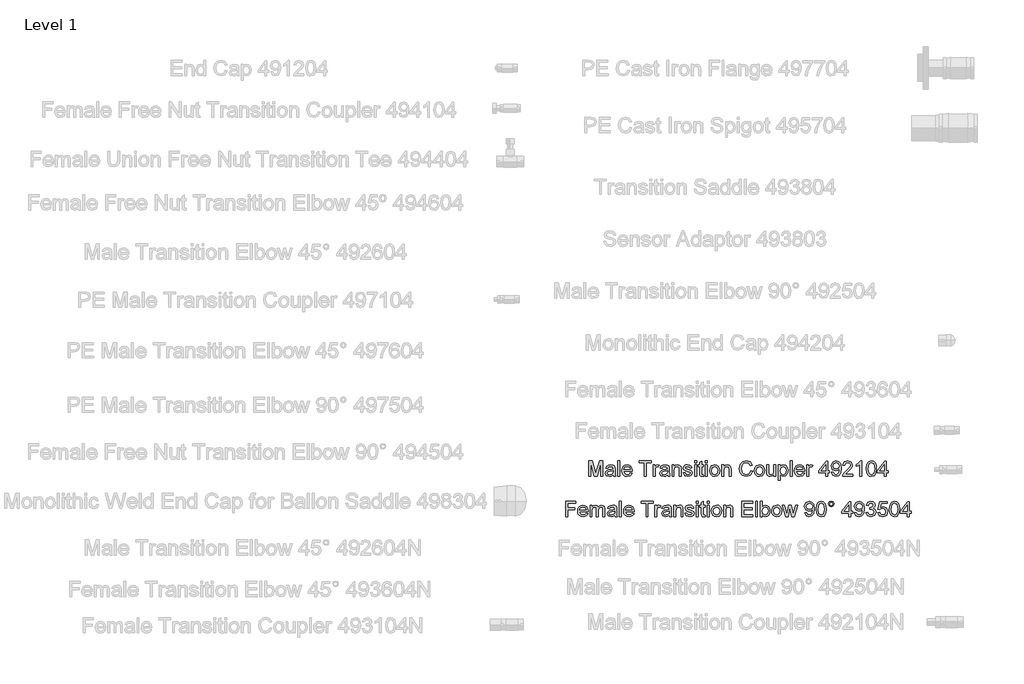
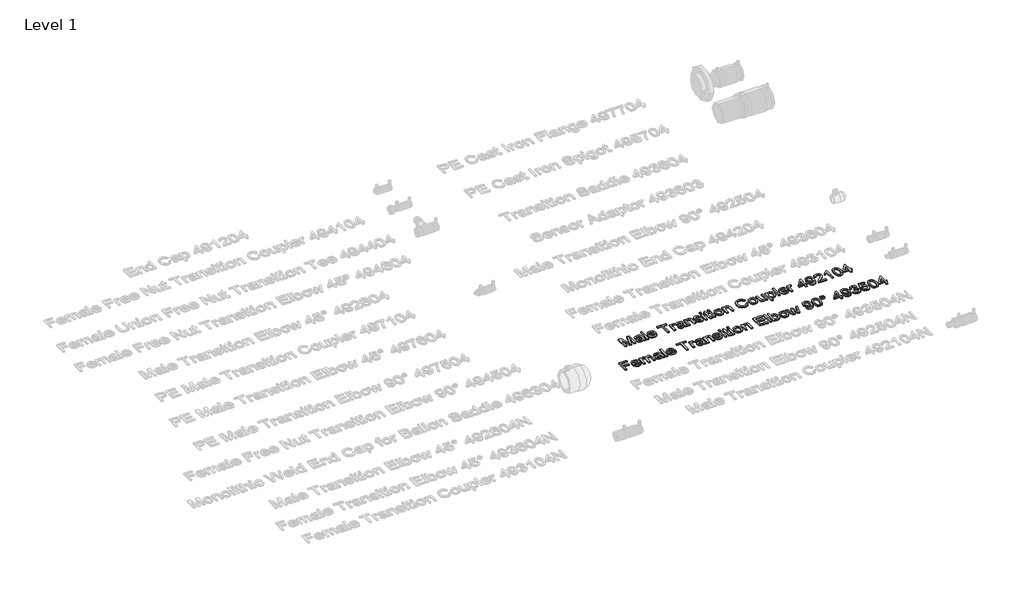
# One storey, part 23 of 38: 2 proxies.
"""IFC4 building model written with IfcOpenShell, lengths in millimetres."""

from ifc_helpers import new_model, si_unit, origin, origin_with_axes, place, context, project, spatial, polyline, outline, extrude, element, save

model = new_model("IFC4")

# Units and contexts
model_context = context("Model", 3, world=origin())
ifc_project = project(units=[si_unit("LENGTHUNIT", "METRE", prefix="MILLI")], contexts=[model_context])

# Site, building, storey
site = spatial("IfcSite", under=ifc_project)
building = spatial("IfcBuilding", under=site)
storey = spatial("IfcBuildingStorey", under=building, Name="Level 1", Elevation=0.0)

# Proxies
placement = place(None, origin())
element("IfcBuildingElementProxy", 1, Name="100 mm Arial", ObjectType="100 mm Arial", at=placement, inside=storey, context=model_context, shape_type="SweptSolid", body=[
    extrude(outline(polyline([(17636.9905276, 3538.8467771), (17636.9905276, 3597.9237001), (17649.6972584, 3597.9237001), (17661.7837968, 3556.2842771), (17664.2212968, 3547.5871617), (17666.8607199, 3557.0054309), (17678.7453353, 3597.9237001), (17691.4520661, 3597.9237001), (17691.4520661, 3538.8467771), (17684.0674507, 3538.8467771), (17684.0674507, 3590.5390848), (17669.2261045, 3538.8467771), (17659.2164891, 3538.8467771), (17644.375143, 3590.5390848), (17644.375143, 3538.8467771), (17636.9905276, 3538.8467771)])), origin_with_axes(), (0.0, 0.0, 1.0), 5.0),
    extrude(outline(polyline([(17731.1443737, 3544.3852386), (17723.9833161, 3539.3804309), (17716.0722584, 3537.9237001), (17705.3487007, 3541.4285078), (17701.6059122, 3550.3852386), (17703.0193737, 3556.2265848), (17706.7333161, 3560.4669694), (17711.9039891, 3562.8900463), (17718.2934122, 3564.0006232), (17731.1011045, 3566.5390848), (17731.1443737, 3568.1833155), (17729.1107199, 3573.6352386), (17720.9472584, 3575.769854), (17713.4761045, 3574.3491809), (17709.9136045, 3569.3083155), (17702.5289891, 3570.2313924), (17705.7237007, 3577.4429309), (17712.156393, 3581.6688924), (17721.8991814, 3583.1544694), (17730.8487007, 3581.8419694), (17735.9039891, 3578.5462963), (17738.1684122, 3573.5342771), (17738.5289891, 3567.0727386), (17738.5289891, 3557.8852386), (17738.9039891, 3545.0559117), (17740.375143, 3538.8467771), (17732.9905276, 3538.8467771), (17731.1443737, 3544.3852386)]), holes=[polyline([(17731.1443737, 3559.1544694), (17719.2309122, 3556.8900463), (17712.8775468, 3555.6929309), (17710.000143, 3553.7458155), (17708.9905276, 3550.9044694), (17711.1900468, 3546.9092771), (17717.6443737, 3545.3083155), (17725.1155276, 3547.0751424), (17729.9328353, 3551.3515848), (17731.1011045, 3557.0631232), (17731.1443737, 3559.1544694)])]), origin_with_axes(), (0.0, 0.0, 1.0), 5.0),
    extrude(outline(polyline([(17748.6828353, 3538.8467771), (17748.6828353, 3597.9237001), (17756.0674507, 3597.9237001), (17756.0674507, 3538.8467771), (17748.6828353, 3538.8467771)])), origin_with_axes(), (0.0, 0.0, 1.0), 5.0),
    extrude(outline(polyline([(17797.5193737, 3551.769854), (17804.7597584, 3550.8467771), (17797.9881237, 3541.3131232), (17785.375143, 3537.9237001), (17776.7104795, 3539.3858396), (17770.0434122, 3543.7722578), (17765.7922103, 3550.7980992), (17764.375143, 3560.1785078), (17765.8066334, 3569.8744213), (17770.1011045, 3577.1256232), (17776.6780276, 3581.6472578), (17784.9568737, 3583.1544694), (17792.9779074, 3581.6508636), (17799.3871622, 3577.1400463), (17803.5896862, 3569.9032674), (17804.9905276, 3560.2217771), (17804.9472584, 3558.2313924), (17771.7597584, 3558.2313924), (17776.0073545, 3548.6400463), (17785.5193737, 3545.3083155), (17792.7597584, 3546.8515848), (17797.5193737, 3551.769854)]), holes=[polyline([(17771.7597584, 3565.6160078), (17797.6059122, 3565.6160078), (17794.6491814, 3572.3083155), (17784.9280276, 3575.769854), (17775.8342776, 3573.0078348), (17771.7597584, 3565.6160078)])]), origin_with_axes(), (0.0, 0.0, 1.0), 5.0),
    extrude(outline(polyline([(17851.1443737, 3538.8467771), (17851.1443737, 3590.5390848), (17831.7597584, 3590.5390848), (17831.7597584, 3597.9237001), (17877.9136045, 3597.9237001), (17877.9136045, 3590.5390848), (17858.5289891, 3590.5390848), (17858.5289891, 3538.8467771), (17851.1443737, 3538.8467771)])), origin_with_axes(), (0.0, 0.0, 1.0), 5.0),
    extrude(outline(polyline([(17885.2982199, 3538.8467771), (17885.2982199, 3582.2313924), (17891.7597584, 3582.2313924), (17891.7597584, 3575.8131232), (17896.3462968, 3581.7265848), (17900.9616814, 3583.1544694), (17908.375143, 3580.8756232), (17905.9087968, 3574.2554309), (17900.7164891, 3575.769854), (17896.5410084, 3574.3131232), (17893.8799507, 3570.2746617), (17892.6828353, 3561.6496617), (17892.6828353, 3538.8467771), (17885.2982199, 3538.8467771)])), origin_with_axes(), (0.0, 0.0, 1.0), 5.0),
    extrude(outline(polyline([(17940.6828353, 3544.3852386), (17933.5217776, 3539.3804309), (17925.6107199, 3537.9237001), (17914.8871622, 3541.4285078), (17911.1443737, 3550.3852386), (17912.5578353, 3556.2265848), (17916.2717776, 3560.4669694), (17921.4424507, 3562.8900463), (17927.8318737, 3564.0006232), (17940.6395661, 3566.5390848), (17940.6828353, 3568.1833155), (17938.6491814, 3573.6352386), (17930.4857199, 3575.769854), (17923.0145661, 3574.3491809), (17919.4520661, 3569.3083155), (17912.0674507, 3570.2313924), (17915.2621622, 3577.4429309), (17921.6948545, 3581.6688924), (17931.437643, 3583.1544694), (17940.3871622, 3581.8419694), (17945.4424507, 3578.5462963), (17947.7068737, 3573.5342771), (17948.0674507, 3567.0727386), (17948.0674507, 3557.8852386), (17948.4424507, 3545.0559117), (17949.9136045, 3538.8467771), (17942.5289891, 3538.8467771), (17940.6828353, 3544.3852386)]), holes=[polyline([(17940.6828353, 3559.1544694), (17928.7693737, 3556.8900463), (17922.4160084, 3555.6929309), (17919.5386045, 3553.7458155), (17918.5289891, 3550.9044694), (17920.7285084, 3546.9092771), (17927.1828353, 3545.3083155), (17934.6539891, 3547.0751424), (17939.4712968, 3551.3515848), (17940.6395661, 3557.0631232), (17940.6828353, 3559.1544694)])]), origin_with_axes(), (0.0, 0.0, 1.0), 5.0),
    extrude(outline(polyline([(17958.2212968, 3538.8467771), (17958.2212968, 3582.2313924), (17965.6059122, 3582.2313924), (17965.6059122, 3576.1737001), (17971.2525468, 3581.4092771), (17978.9616814, 3583.1544694), (17985.9352391, 3581.7482194), (17990.6948545, 3578.0559117), (17992.9087968, 3572.6256232), (17993.2982199, 3565.4862001), (17993.2982199, 3538.8467771), (17985.9136045, 3538.8467771), (17985.9136045, 3564.4910078), (17985.062643, 3571.0246617), (17982.0554314, 3574.4789886), (17976.9857199, 3575.769854), (17968.9737007, 3572.8708155), (17965.6059122, 3561.8660078), (17965.6059122, 3538.8467771), (17958.2212968, 3538.8467771)])), origin_with_axes(), (0.0, 0.0, 1.0), 5.0),
    extrude(outline(polyline([(18000.6828353, 3551.769854), (18008.0674507, 3552.6929309), (18011.4857199, 3547.2121617), (18019.3174507, 3545.3083155), (18026.8462968, 3547.0535078), (18029.2982199, 3551.1496617), (18026.8318737, 3554.4669694), (18019.2309122, 3556.5727386), (18008.1107199, 3560.1857194), (18003.2573545, 3564.4044694), (18001.6059122, 3570.3612001), (18002.9328353, 3575.863604), (18006.5530276, 3580.0679309), (18011.2477391, 3582.2530271), (18017.6011045, 3583.1544694), (18026.5866814, 3581.7049501), (18032.2982199, 3577.7818732), (18034.8366814, 3571.1544694), (18027.4520661, 3570.2313924), (18024.6756237, 3574.3059117), (18018.1780276, 3575.769854), (18011.1107199, 3574.3708155), (18008.9905276, 3571.1112001), (18009.8703353, 3568.9621617), (18012.625143, 3567.332354), (18018.9857199, 3565.7602386), (18029.8246622, 3562.2842771), (18034.8583161, 3558.3467771), (18036.6828353, 3551.9285078), (18034.5410084, 3544.8612001), (18028.3607199, 3539.7337963), (18019.2164891, 3537.9237001), (18006.3366814, 3541.4140848), (18000.6828353, 3551.769854)])), origin_with_axes(), (0.0, 0.0, 1.0), 5.0),
    extrude(outline(polyline([(18044.9905276, 3590.5390848), (18044.9905276, 3597.9237001), (18052.375143, 3597.9237001), (18052.375143, 3590.5390848), (18044.9905276, 3590.5390848)])), origin_with_axes(), (0.0, 0.0, 1.0), 5.0),
    extrude(outline(polyline([(18044.9905276, 3538.8467771), (18044.9905276, 3582.2313924), (18052.375143, 3582.2313924), (18052.375143, 3538.8467771), (18044.9905276, 3538.8467771)])), origin_with_axes(), (0.0, 0.0, 1.0), 5.0),
    extrude(outline(polyline([(18079.1443737, 3545.0054309), (18080.0674507, 3538.6304309), (18074.5434122, 3537.9237001), (18068.3559122, 3539.1496617), (18065.2693737, 3542.3660078), (18064.375143, 3550.7458155), (18064.375143, 3574.8467771), (18058.8366814, 3574.8467771), (18058.8366814, 3582.2313924), (18064.375143, 3582.2313924), (18064.375143, 3592.7746617), (18071.7597584, 3597.1160078), (18071.7597584, 3582.2313924), (18079.1443737, 3582.2313924), (18079.1443737, 3574.8467771), (18071.7597584, 3574.8467771), (18071.7597584, 3550.9621617), (18072.1491814, 3547.1544694), (18073.4112007, 3545.8059117), (18075.9280276, 3545.3083155), (18079.1443737, 3545.0054309)])), origin_with_axes(), (0.0, 0.0, 1.0), 5.0),
    extrude(outline(polyline([(18086.5289891, 3590.5390848), (18086.5289891, 3597.9237001), (18093.9136045, 3597.9237001), (18093.9136045, 3590.5390848), (18086.5289891, 3590.5390848)])), origin_with_axes(), (0.0, 0.0, 1.0), 5.0),
    extrude(outline(polyline([(18086.5289891, 3538.8467771), (18086.5289891, 3582.2313924), (18093.9136045, 3582.2313924), (18093.9136045, 3538.8467771), (18086.5289891, 3538.8467771)])), origin_with_axes(), (0.0, 0.0, 1.0), 5.0),
    extrude(outline(polyline([(18103.1443737, 3560.5390848), (18104.7417295, 3570.9994213), (18109.5337968, 3578.3515848), (18122.5434122, 3583.1544694), (18130.3012247, 3581.6923299), (18136.4977391, 3577.3059117), (18140.5596382, 3570.3413684), (18141.9136045, 3561.144854), (18139.5193737, 3548.0054309), (18132.5458161, 3540.5703348), (18122.5434122, 3537.9237001), (18114.6918497, 3539.3804309), (18108.5025468, 3543.7506232), (18104.483917, 3550.8612001), (18103.1443737, 3560.5390848)]), holes=[polyline([(18110.5289891, 3560.5535078), (18113.9472584, 3549.1087963), (18122.5434122, 3545.3083155), (18131.1107199, 3549.1304309), (18134.5289891, 3560.7842771), (18131.0890853, 3571.9693732), (18122.5434122, 3575.769854), (18113.9472584, 3571.9837963), (18110.5289891, 3560.5535078)])]), origin_with_axes(), (0.0, 0.0, 1.0), 5.0),
    extrude(outline(polyline([(18150.2212968, 3538.8467771), (18150.2212968, 3582.2313924), (18157.6059122, 3582.2313924), (18157.6059122, 3576.1737001), (18163.2525468, 3581.4092771), (18170.9616814, 3583.1544694), (18177.9352391, 3581.7482194), (18182.6948545, 3578.0559117), (18184.9087968, 3572.6256232), (18185.2982199, 3565.4862001), (18185.2982199, 3538.8467771), (18177.9136045, 3538.8467771), (18177.9136045, 3564.4910078), (18177.062643, 3571.0246617), (18174.0554314, 3574.4789886), (18168.9857199, 3575.769854), (18160.9737007, 3572.8708155), (18157.6059122, 3561.8660078), (18157.6059122, 3538.8467771), (18150.2212968, 3538.8467771)])), origin_with_axes(), (0.0, 0.0, 1.0), 5.0),
    extrude(outline(polyline([(18260.9905276, 3559.8467771), (18268.375143, 3557.9429309), (18259.6203353, 3543.051104), (18244.1587968, 3537.9237001), (18228.7910084, 3541.8035078), (18219.7765853, 3553.0390848), (18216.6828353, 3568.832354), (18220.1804314, 3584.8852386), (18230.125143, 3595.2914886), (18244.3174507, 3598.8467771), (18259.1083161, 3594.2458155), (18267.4520661, 3581.2938924), (18260.0674507, 3579.5342771), (18254.0097584, 3588.613604), (18244.0289891, 3591.4621617), (18232.4761045, 3588.3035078), (18225.9496622, 3579.8227386), (18224.0674507, 3568.8467771), (18226.2958161, 3556.1256232), (18233.2333161, 3547.9982194), (18243.4232199, 3545.3083155), (18254.7237007, 3548.9717771), (18260.9905276, 3559.8467771)])), origin_with_axes(), (0.0, 0.0, 1.0), 5.0),
    extrude(outline(polyline([(18275.7597584, 3560.5390848), (18277.3571141, 3570.9994213), (18282.1491814, 3578.3515848), (18295.1587968, 3583.1544694), (18302.9166093, 3581.6923299), (18309.1131237, 3577.3059117), (18313.1750228, 3570.3413684), (18314.5289891, 3561.144854), (18312.1347584, 3548.0054309), (18305.1612007, 3540.5703348), (18295.1587968, 3537.9237001), (18287.3072343, 3539.3804309), (18281.1179314, 3543.7506232), (18277.0993016, 3550.8612001), (18275.7597584, 3560.5390848)]), holes=[polyline([(18283.1443737, 3560.5535078), (18286.562643, 3549.1087963), (18295.1587968, 3545.3083155), (18303.7261045, 3549.1304309), (18307.1443737, 3560.7842771), (18303.7044699, 3571.9693732), (18295.1587968, 3575.769854), (18286.562643, 3571.9837963), (18283.1443737, 3560.5535078)])]), origin_with_axes(), (0.0, 0.0, 1.0), 5.0),
    extrude(outline(polyline([(18350.5289891, 3538.8467771), (18350.5289891, 3546.3035078), (18344.7453353, 3540.0186521), (18337.2020661, 3537.9237001), (18330.2573545, 3539.394854), (18325.468893, 3543.0871617), (18323.2693737, 3548.5246617), (18322.8366814, 3555.3900463), (18322.8366814, 3582.2313924), (18330.2212968, 3582.2313924), (18330.2212968, 3558.8660078), (18330.6684122, 3551.3371617), (18333.5890853, 3546.9164886), (18339.0914891, 3545.3083155), (18345.2573545, 3546.9525463), (18349.3318737, 3551.4309117), (18350.5289891, 3559.6592771), (18350.5289891, 3582.2313924), (18357.9136045, 3582.2313924), (18357.9136045, 3538.8467771), (18350.5289891, 3538.8467771)])), origin_with_axes(), (0.0, 0.0, 1.0), 5.0),
    extrude(outline(polyline([(18368.0674507, 3522.2313924), (18368.0674507, 3582.2313924), (18375.4520661, 3582.2313924), (18375.4520661, 3574.9910078), (18380.5578353, 3581.113604), (18387.4520661, 3583.1544694), (18396.812643, 3580.2987001), (18402.9280276, 3572.2506232), (18404.9905276, 3560.8708155), (18402.6612007, 3548.9068732), (18395.8967776, 3540.7578348), (18386.5578353, 3537.9237001), (18380.1323545, 3539.8203348), (18375.4520661, 3544.6160078), (18375.4520661, 3522.2313924), (18368.0674507, 3522.2313924)]), holes=[polyline([(18375.4520661, 3560.1929309), (18378.6467776, 3548.9429309), (18386.3991814, 3545.3083155), (18394.3102391, 3549.0727386), (18397.6059122, 3560.7410078), (18394.3895661, 3572.019854), (18386.7020661, 3575.769854), (18378.8631237, 3571.7818732), (18375.4520661, 3560.1929309)])]), origin_with_axes(), (0.0, 0.0, 1.0), 5.0),
    extrude(outline(polyline([(18413.2982199, 3538.8467771), (18413.2982199, 3597.9237001), (18420.6828353, 3597.9237001), (18420.6828353, 3538.8467771), (18413.2982199, 3538.8467771)])), origin_with_axes(), (0.0, 0.0, 1.0), 5.0),
    extrude(outline(polyline([(18462.1347584, 3551.769854), (18469.375143, 3550.8467771), (18462.6035084, 3541.3131232), (18449.9905276, 3537.9237001), (18441.3258641, 3539.3858396), (18434.6587968, 3543.7722578), (18430.4075949, 3550.7980992), (18428.9905276, 3560.1785078), (18430.422018, 3569.8744213), (18434.7164891, 3577.1256232), (18441.2934122, 3581.6472578), (18449.5722584, 3583.1544694), (18457.593292, 3581.6508636), (18464.0025468, 3577.1400463), (18468.2050709, 3569.9032674), (18469.6059122, 3560.2217771), (18469.562643, 3558.2313924), (18436.375143, 3558.2313924), (18440.6227391, 3548.6400463), (18450.1347584, 3545.3083155), (18457.375143, 3546.8515848), (18462.1347584, 3551.769854)]), holes=[polyline([(18436.375143, 3565.6160078), (18462.2212968, 3565.6160078), (18459.2645661, 3572.3083155), (18449.5434122, 3575.769854), (18440.4496622, 3573.0078348), (18436.375143, 3565.6160078)])]), origin_with_axes(), (0.0, 0.0, 1.0), 5.0),
    extrude(outline(polyline([(18476.9905276, 3538.8467771), (18476.9905276, 3582.2313924), (18483.4520661, 3582.2313924), (18483.4520661, 3575.8131232), (18488.0386045, 3581.7265848), (18492.6539891, 3583.1544694), (18500.0674507, 3580.8756232), (18497.6011045, 3574.2554309), (18492.4087968, 3575.769854), (18488.2333161, 3574.3131232), (18485.5722584, 3570.2746617), (18484.375143, 3561.6496617), (18484.375143, 3538.8467771), (18476.9905276, 3538.8467771)])), origin_with_axes(), (0.0, 0.0, 1.0), 5.0),
    extrude(outline(polyline([(18549.9136045, 3538.8467771), (18549.9136045, 3552.6929309), (18523.1443737, 3552.6929309), (18523.1443737, 3560.0775463), (18551.7597584, 3597.0006232), (18557.2982199, 3597.0006232), (18557.2982199, 3560.0775463), (18564.6828353, 3560.0775463), (18564.6828353, 3552.6929309), (18557.2982199, 3552.6929309), (18557.2982199, 3538.8467771), (18549.9136045, 3538.8467771)]), holes=[polyline([(18549.9136045, 3560.0775463), (18549.9136045, 3582.894854), (18532.2309122, 3560.0775463), (18549.9136045, 3560.0775463)])]), origin_with_axes(), (0.0, 0.0, 1.0), 5.0),
    extrude(outline(polyline([(18572.0674507, 3553.6160078), (18579.4520661, 3554.5390848), (18582.7693737, 3547.4934117), (18589.0578353, 3545.3083155), (18595.0362007, 3546.7145655), (18599.0890853, 3550.4717771), (18601.5049507, 3556.8900463), (18602.5722584, 3565.457354), (18596.6227391, 3561.3035078), (18588.5241814, 3559.1544694), (18576.1852391, 3564.4044694), (18571.1443737, 3578.2362001), (18576.4304314, 3592.5150463), (18589.6780276, 3597.9237001), (18600.1996622, 3594.8371617), (18607.4400468, 3586.0390848), (18609.9136045, 3569.5102386), (18607.4472584, 3551.5751424), (18600.1131237, 3541.4140848), (18588.7116814, 3537.9237001), (18577.3607199, 3542.0414886), (18572.0674507, 3553.6160078)]), holes=[polyline([(18602.5289891, 3578.4092771), (18599.3414891, 3587.2650463), (18590.875143, 3590.5390848), (18581.9905276, 3587.0126424), (18578.5289891, 3577.8756232), (18581.8030276, 3569.6905271), (18590.6732199, 3566.5390848), (18599.1900468, 3569.6905271), (18602.5289891, 3578.4092771)])]), origin_with_axes(), (0.0, 0.0, 1.0), 5.0),
    extrude(outline(polyline([(18654.2212968, 3546.2313924), (18654.2212968, 3538.8467771), (18615.4520661, 3538.8467771), (18616.2453353, 3543.9381232), (18620.7309122, 3551.7770655), (18629.9761045, 3560.3371617), (18642.7261045, 3572.6400463), (18645.9136045, 3581.0054309), (18642.906393, 3587.7770655), (18635.0530276, 3590.5390848), (18626.8679314, 3587.8419694), (18623.7597584, 3580.3852386), (18616.375143, 3581.3083155), (18622.0362007, 3593.6688924), (18635.2116814, 3597.9237001), (18648.4304314, 3593.1929309), (18653.2982199, 3581.4525463), (18651.9857199, 3574.4501424), (18647.6227391, 3567.2097578), (18637.0434122, 3557.0919694), (18628.5482199, 3549.988604), (18625.2164891, 3546.2313924), (18654.2212968, 3546.2313924)])), origin_with_axes(), (0.0, 0.0, 1.0), 5.0),
    extrude(outline(polyline([(18689.2982199, 3538.8467771), (18681.9136045, 3538.8467771), (18681.9136045, 3584.8852386), (18674.9184122, 3579.9020655), (18667.1443737, 3576.1737001), (18667.1443737, 3583.1544694), (18677.968893, 3590.0631232), (18684.5386045, 3597.9237001), (18689.2982199, 3597.9237001), (18689.2982199, 3538.8467771)])), origin_with_axes(), (0.0, 0.0, 1.0), 5.0),
    extrude(outline(polyline([(18706.8366814, 3567.9092771), (18709.0073545, 3584.9068732), (18715.4544699, 3594.707354), (18726.2212968, 3597.9237001), (18734.8462968, 3596.019854), (18740.8030276, 3590.5318732), (18744.2645661, 3581.7914886), (18745.6059122, 3567.9092771), (18743.4568737, 3550.9837963), (18737.031393, 3541.1616809), (18726.2212968, 3537.9237001), (18718.5482199, 3539.3299501), (18712.7212968, 3543.5487001), (18708.3078353, 3553.5402867), (18706.8366814, 3567.9092771)]), holes=[polyline([(18714.2212968, 3567.9237001), (18717.6828353, 3549.5847578), (18726.2212968, 3545.3083155), (18734.7597584, 3549.5991809), (18738.2212968, 3567.9237001), (18734.875143, 3586.0535078), (18726.1347584, 3590.5390848), (18717.7982199, 3586.5871617), (18714.2212968, 3567.9237001)])]), origin_with_axes(), (0.0, 0.0, 1.0), 5.0),
    extrude(outline(polyline([(18776.0674507, 3538.8467771), (18776.0674507, 3552.6929309), (18749.2982199, 3552.6929309), (18749.2982199, 3560.0775463), (18777.9136045, 3597.0006232), (18783.4520661, 3597.0006232), (18783.4520661, 3560.0775463), (18790.8366814, 3560.0775463), (18790.8366814, 3552.6929309), (18783.4520661, 3552.6929309), (18783.4520661, 3538.8467771), (18776.0674507, 3538.8467771)]), holes=[polyline([(18776.0674507, 3560.0775463), (18776.0674507, 3582.894854), (18758.3847584, 3560.0775463), (18776.0674507, 3560.0775463)])]), origin_with_axes(), (0.0, 0.0, 1.0), 5.0),
])
element("IfcBuildingElementProxy", 2, Name="100 mm Arial", ObjectType="100 mm Arial", at=placement, inside=storey, context=model_context, shape_type="SweptSolid", body=[
    extrude(outline(polyline([(17547.9136045, 3383.0274597), (17547.9136045, 3442.1043828), (17587.6059122, 3442.1043828), (17587.6059122, 3434.7197674), (17555.2982199, 3434.7197674), (17555.2982199, 3417.1813059), (17582.9905276, 3417.1813059), (17582.9905276, 3409.7966905), (17555.2982199, 3409.7966905), (17555.2982199, 3383.0274597), (17547.9136045, 3383.0274597)])), origin_with_axes(), (0.0, 0.0, 1.0), 5.0),
    extrude(outline(polyline([(17627.2116814, 3395.9505366), (17634.4520661, 3395.0274597), (17627.6804314, 3385.4938059), (17615.0674507, 3382.1043828), (17606.4027872, 3383.5665222), (17599.7357199, 3387.9529405), (17595.484518, 3394.9787818), (17594.0674507, 3404.3591905), (17595.4989411, 3414.0551039), (17599.7934122, 3421.3063059), (17606.3703353, 3425.8279405), (17614.6491814, 3427.335152), (17622.6702151, 3425.8315463), (17629.0794699, 3421.3207289), (17633.2819939, 3414.0839501), (17634.6828353, 3404.4024597), (17634.6395661, 3402.4120751), (17601.4520661, 3402.4120751), (17605.6996622, 3392.8207289), (17615.2116814, 3389.4889982), (17622.4520661, 3391.0322674), (17627.2116814, 3395.9505366)]), holes=[polyline([(17601.4520661, 3409.7966905), (17627.2982199, 3409.7966905), (17624.3414891, 3416.4889982), (17614.6203353, 3419.9505366), (17605.5265853, 3417.1885174), (17601.4520661, 3409.7966905)])]), origin_with_axes(), (0.0, 0.0, 1.0), 5.0),
    extrude(outline(polyline([(17642.0674507, 3383.0274597), (17642.0674507, 3426.4120751), (17649.4520661, 3426.4120751), (17649.4520661, 3419.272652), (17654.5289891, 3425.1212097), (17661.7549507, 3427.335152), (17669.1539891, 3425.0779405), (17673.2212968, 3418.7534213), (17678.9833161, 3425.1897193), (17686.2597584, 3427.335152), (17695.9160084, 3423.7654405), (17699.2982199, 3412.7678443), (17699.2982199, 3383.0274597), (17691.9136045, 3383.0274597), (17691.9136045, 3409.5947674), (17691.2285084, 3415.7606328), (17688.7477391, 3418.7966905), (17684.5289891, 3419.9505366), (17677.2669699, 3416.9938059), (17674.375143, 3407.5178443), (17674.375143, 3383.0274597), (17666.9905276, 3383.0274597), (17666.9905276, 3410.4168828), (17665.281393, 3417.5707289), (17659.6780276, 3419.9505366), (17654.2116814, 3418.3639982), (17650.5770661, 3413.7197674), (17649.4520661, 3404.9072674), (17649.4520661, 3383.0274597), (17642.0674507, 3383.0274597)])), origin_with_axes(), (0.0, 0.0, 1.0), 5.0),
    extrude(outline(polyline([(17738.0674507, 3388.5659213), (17730.906393, 3383.5611136), (17722.9953353, 3382.1043828), (17712.2717776, 3385.6091905), (17708.5289891, 3394.5659213), (17709.9424507, 3400.4072674), (17713.656393, 3404.647652), (17718.8270661, 3407.0707289), (17725.2164891, 3408.1813059), (17738.0241814, 3410.7197674), (17738.0674507, 3412.3639982), (17736.0337968, 3417.8159213), (17727.8703353, 3419.9505366), (17720.3991814, 3418.5298636), (17716.8366814, 3413.4889982), (17709.4520661, 3414.4120751), (17712.6467776, 3421.6236136), (17719.0794699, 3425.8495751), (17728.8222584, 3427.335152), (17737.7717776, 3426.022652), (17742.8270661, 3422.7269789), (17745.0914891, 3417.7149597), (17745.4520661, 3411.2534213), (17745.4520661, 3402.0659213), (17745.8270661, 3389.2365943), (17747.2982199, 3383.0274597), (17739.9136045, 3383.0274597), (17738.0674507, 3388.5659213)]), holes=[polyline([(17738.0674507, 3403.335152), (17726.1539891, 3401.0707289), (17719.8006237, 3399.8736136), (17716.9232199, 3397.9264982), (17715.9136045, 3395.085152), (17718.1131237, 3391.0899597), (17724.5674507, 3389.4889982), (17732.0386045, 3391.2558251), (17736.8559122, 3395.5322674), (17738.0241814, 3401.2438059), (17738.0674507, 3403.335152)])]), origin_with_axes(), (0.0, 0.0, 1.0), 5.0),
    extrude(outline(polyline([(17755.6059122, 3383.0274597), (17755.6059122, 3442.1043828), (17762.9905276, 3442.1043828), (17762.9905276, 3383.0274597), (17755.6059122, 3383.0274597)])), origin_with_axes(), (0.0, 0.0, 1.0), 5.0),
    extrude(outline(polyline([(17804.4424507, 3395.9505366), (17811.6828353, 3395.0274597), (17804.9112007, 3385.4938059), (17792.2982199, 3382.1043828), (17783.6335564, 3383.5665222), (17776.9664891, 3387.9529405), (17772.7152872, 3394.9787818), (17771.2982199, 3404.3591905), (17772.7297103, 3414.0551039), (17777.0241814, 3421.3063059), (17783.6011045, 3425.8279405), (17791.8799507, 3427.335152), (17799.9009843, 3425.8315463), (17806.3102391, 3421.3207289), (17810.5127632, 3414.0839501), (17811.9136045, 3404.4024597), (17811.8703353, 3402.4120751), (17778.6828353, 3402.4120751), (17782.9304314, 3392.8207289), (17792.4424507, 3389.4889982), (17799.6828353, 3391.0322674), (17804.4424507, 3395.9505366)]), holes=[polyline([(17778.6828353, 3409.7966905), (17804.5289891, 3409.7966905), (17801.5722584, 3416.4889982), (17791.8511045, 3419.9505366), (17782.7573545, 3417.1885174), (17778.6828353, 3409.7966905)])]), origin_with_axes(), (0.0, 0.0, 1.0), 5.0),
    extrude(outline(polyline([(17858.0674507, 3383.0274597), (17858.0674507, 3434.7197674), (17838.6828353, 3434.7197674), (17838.6828353, 3442.1043828), (17884.8366814, 3442.1043828), (17884.8366814, 3434.7197674), (17865.4520661, 3434.7197674), (17865.4520661, 3383.0274597), (17858.0674507, 3383.0274597)])), origin_with_axes(), (0.0, 0.0, 1.0), 5.0),
    extrude(outline(polyline([(17892.2212968, 3383.0274597), (17892.2212968, 3426.4120751), (17898.6828353, 3426.4120751), (17898.6828353, 3419.9938059), (17903.2693737, 3425.9072674), (17907.8847584, 3427.335152), (17915.2982199, 3425.0563059), (17912.8318737, 3418.4361136), (17907.6395661, 3419.9505366), (17903.4640853, 3418.4938059), (17900.8030276, 3414.4553443), (17899.6059122, 3405.8303443), (17899.6059122, 3383.0274597), (17892.2212968, 3383.0274597)])), origin_with_axes(), (0.0, 0.0, 1.0), 5.0),
    extrude(outline(polyline([(17947.6059122, 3388.5659213), (17940.4448545, 3383.5611136), (17932.5337968, 3382.1043828), (17921.8102391, 3385.6091905), (17918.0674507, 3394.5659213), (17919.4809122, 3400.4072674), (17923.1948545, 3404.647652), (17928.3655276, 3407.0707289), (17934.7549507, 3408.1813059), (17947.562643, 3410.7197674), (17947.6059122, 3412.3639982), (17945.5722584, 3417.8159213), (17937.4087968, 3419.9505366), (17929.937643, 3418.5298636), (17926.375143, 3413.4889982), (17918.9905276, 3414.4120751), (17922.1852391, 3421.6236136), (17928.6179314, 3425.8495751), (17938.3607199, 3427.335152), (17947.3102391, 3426.022652), (17952.3655276, 3422.7269789), (17954.6299507, 3417.7149597), (17954.9905276, 3411.2534213), (17954.9905276, 3402.0659213), (17955.3655276, 3389.2365943), (17956.8366814, 3383.0274597), (17949.4520661, 3383.0274597), (17947.6059122, 3388.5659213)]), holes=[polyline([(17947.6059122, 3403.335152), (17935.6924507, 3401.0707289), (17929.3390853, 3399.8736136), (17926.4616814, 3397.9264982), (17925.4520661, 3395.085152), (17927.6515853, 3391.0899597), (17934.1059122, 3389.4889982), (17941.5770661, 3391.2558251), (17946.3943737, 3395.5322674), (17947.562643, 3401.2438059), (17947.6059122, 3403.335152)])]), origin_with_axes(), (0.0, 0.0, 1.0), 5.0),
    extrude(outline(polyline([(17965.1443737, 3383.0274597), (17965.1443737, 3426.4120751), (17972.5289891, 3426.4120751), (17972.5289891, 3420.3543828), (17978.1756237, 3425.5899597), (17985.8847584, 3427.335152), (17992.8583161, 3425.928902), (17997.6179314, 3422.2365943), (17999.8318737, 3416.8063059), (18000.2212968, 3409.6668828), (18000.2212968, 3383.0274597), (17992.8366814, 3383.0274597), (17992.8366814, 3408.6716905), (17991.9857199, 3415.2053443), (17988.9785084, 3418.6596713), (17983.9087968, 3419.9505366), (17975.8967776, 3417.0514982), (17972.5289891, 3406.0466905), (17972.5289891, 3383.0274597), (17965.1443737, 3383.0274597)])), origin_with_axes(), (0.0, 0.0, 1.0), 5.0),
    extrude(outline(polyline([(18007.6059122, 3395.9505366), (18014.9905276, 3396.8736136), (18018.4087968, 3391.3928443), (18026.2405276, 3389.4889982), (18033.7693737, 3391.2341905), (18036.2212968, 3395.3303443), (18033.7549507, 3398.647652), (18026.1539891, 3400.7534213), (18015.0337968, 3404.366402), (18010.1804314, 3408.585152), (18008.5289891, 3414.5418828), (18009.8559122, 3420.0442866), (18013.4761045, 3424.2486136), (18018.1708161, 3426.4337097), (18024.5241814, 3427.335152), (18033.5097584, 3425.8856328), (18039.2212968, 3421.9625559), (18041.7597584, 3415.335152), (18034.375143, 3414.4120751), (18031.5987007, 3418.4865943), (18025.1011045, 3419.9505366), (18018.0337968, 3418.5514982), (18015.9136045, 3415.2918828), (18016.7934122, 3413.1428443), (18019.5482199, 3411.5130366), (18025.9087968, 3409.9409213), (18036.7477391, 3406.4649597), (18041.781393, 3402.5274597), (18043.6059122, 3396.1091905), (18041.4640853, 3389.0418828), (18035.2837968, 3383.9144789), (18026.1395661, 3382.1043828), (18013.2597584, 3385.5947674), (18007.6059122, 3395.9505366)])), origin_with_axes(), (0.0, 0.0, 1.0), 5.0),
    extrude(outline(polyline([(18051.9136045, 3383.0274597), (18051.9136045, 3426.4120751), (18059.2982199, 3426.4120751), (18059.2982199, 3383.0274597), (18051.9136045, 3383.0274597)])), origin_with_axes(), (0.0, 0.0, 1.0), 5.0),
    extrude(outline(polyline([(18051.9136045, 3434.7197674), (18051.9136045, 3442.1043828), (18059.2982199, 3442.1043828), (18059.2982199, 3434.7197674), (18051.9136045, 3434.7197674)])), origin_with_axes(), (0.0, 0.0, 1.0), 5.0),
    extrude(outline(polyline([(18086.0674507, 3389.1861136), (18086.9905276, 3382.8111136), (18081.4664891, 3382.1043828), (18075.2789891, 3383.3303443), (18072.1924507, 3386.5466905), (18071.2982199, 3394.9264982), (18071.2982199, 3419.0274597), (18065.7597584, 3419.0274597), (18065.7597584, 3426.4120751), (18071.2982199, 3426.4120751), (18071.2982199, 3436.9553443), (18078.6828353, 3441.2966905), (18078.6828353, 3426.4120751), (18086.0674507, 3426.4120751), (18086.0674507, 3419.0274597), (18078.6828353, 3419.0274597), (18078.6828353, 3395.1428443), (18079.0722584, 3391.335152), (18080.3342776, 3389.9865943), (18082.8511045, 3389.4889982), (18086.0674507, 3389.1861136)])), origin_with_axes(), (0.0, 0.0, 1.0), 5.0),
    extrude(outline(polyline([(18093.4520661, 3383.0274597), (18093.4520661, 3426.4120751), (18100.8366814, 3426.4120751), (18100.8366814, 3383.0274597), (18093.4520661, 3383.0274597)])), origin_with_axes(), (0.0, 0.0, 1.0), 5.0),
    extrude(outline(polyline([(18093.4520661, 3434.7197674), (18093.4520661, 3442.1043828), (18100.8366814, 3442.1043828), (18100.8366814, 3434.7197674), (18093.4520661, 3434.7197674)])), origin_with_axes(), (0.0, 0.0, 1.0), 5.0),
    extrude(outline(polyline([(18110.0674507, 3404.7197674), (18111.6648064, 3415.1801039), (18116.4568737, 3422.5322674), (18129.4664891, 3427.335152), (18137.2243016, 3425.8730126), (18143.4208161, 3421.4865943), (18147.4827151, 3414.5220511), (18148.8366814, 3405.3255366), (18146.4424507, 3392.1861136), (18139.468893, 3384.7510174), (18129.4664891, 3382.1043828), (18121.6149266, 3383.5611136), (18115.4256237, 3387.9313059), (18111.4069939, 3395.0418828), (18110.0674507, 3404.7197674)]), holes=[polyline([(18117.4520661, 3404.7341905), (18120.8703353, 3393.2894789), (18129.4664891, 3389.4889982), (18138.0337968, 3393.3111136), (18141.4520661, 3404.9649597), (18138.0121622, 3416.1500559), (18129.4664891, 3419.9505366), (18120.8703353, 3416.1644789), (18117.4520661, 3404.7341905)])]), origin_with_axes(), (0.0, 0.0, 1.0), 5.0),
    extrude(outline(polyline([(18157.1443737, 3383.0274597), (18157.1443737, 3426.4120751), (18164.5289891, 3426.4120751), (18164.5289891, 3420.3543828), (18170.1756237, 3425.5899597), (18177.8847584, 3427.335152), (18184.8583161, 3425.928902), (18189.6179314, 3422.2365943), (18191.8318737, 3416.8063059), (18192.2212968, 3409.6668828), (18192.2212968, 3383.0274597), (18184.8366814, 3383.0274597), (18184.8366814, 3408.6716905), (18183.9857199, 3415.2053443), (18180.9785084, 3418.6596713), (18175.9087968, 3419.9505366), (18167.8967776, 3417.0514982), (18164.5289891, 3406.0466905), (18164.5289891, 3383.0274597), (18157.1443737, 3383.0274597)])), origin_with_axes(), (0.0, 0.0, 1.0), 5.0),
    extrude(outline(polyline([(18226.375143, 3383.0274597), (18226.375143, 3442.1043828), (18268.8366814, 3442.1043828), (18268.8366814, 3434.7197674), (18233.7597584, 3434.7197674), (18233.7597584, 3417.1813059), (18266.9905276, 3417.1813059), (18266.9905276, 3409.7966905), (18233.7597584, 3409.7966905), (18233.7597584, 3390.4120751), (18269.7597584, 3390.4120751), (18269.7597584, 3383.0274597), (18226.375143, 3383.0274597)])), origin_with_axes(), (0.0, 0.0, 1.0), 5.0),
    extrude(outline(polyline([(18279.9136045, 3383.0274597), (18279.9136045, 3442.1043828), (18287.2982199, 3442.1043828), (18287.2982199, 3383.0274597), (18279.9136045, 3383.0274597)])), origin_with_axes(), (0.0, 0.0, 1.0), 5.0),
    extrude(outline(polyline([(18305.7597584, 3383.0274597), (18298.375143, 3383.0274597), (18298.375143, 3442.1043828), (18305.7597584, 3442.1043828), (18305.7597584, 3420.1957289), (18310.9304314, 3425.5502963), (18317.3559122, 3427.335152), (18324.7549507, 3425.7269789), (18330.4953353, 3421.2053443), (18334.0217776, 3414.1740943), (18335.2982199, 3405.3688059), (18333.9767055, 3395.5106328), (18330.0121622, 3388.1764982), (18324.1942536, 3383.6224116), (18317.312643, 3382.1043828), (18310.7465372, 3384.0623155), (18305.7597584, 3389.9361136), (18305.7597584, 3383.0274597)]), holes=[polyline([(18305.7597584, 3405.022652), (18307.7789891, 3394.6957289), (18316.6780276, 3389.4889982), (18324.5818737, 3393.3255366), (18327.9136045, 3404.7630366), (18324.718893, 3416.2438059), (18316.9953353, 3419.9505366), (18309.0914891, 3416.1139982), (18305.7597584, 3405.022652)])]), origin_with_axes(), (0.0, 0.0, 1.0), 5.0),
    extrude(outline(polyline([(18341.7597584, 3404.7197674), (18343.3571141, 3415.1801039), (18348.1491814, 3422.5322674), (18361.1587968, 3427.335152), (18368.9166093, 3425.8730126), (18375.1131237, 3421.4865943), (18379.1750228, 3414.5220511), (18380.5289891, 3405.3255366), (18378.1347584, 3392.1861136), (18371.1612007, 3384.7510174), (18361.1587968, 3382.1043828), (18353.3072343, 3383.5611136), (18347.1179314, 3387.9313059), (18343.0993016, 3395.0418828), (18341.7597584, 3404.7197674)]), holes=[polyline([(18349.1443737, 3404.7341905), (18352.562643, 3393.2894789), (18361.1587968, 3389.4889982), (18369.7261045, 3393.3111136), (18373.1443737, 3404.9649597), (18369.7044699, 3416.1500559), (18361.1587968, 3419.9505366), (18352.562643, 3416.1644789), (18349.1443737, 3404.7341905)])]), origin_with_axes(), (0.0, 0.0, 1.0), 5.0),
    extrude(outline(polyline([(18396.0337968, 3383.0274597), (18382.8366814, 3426.4120751), (18390.5097584, 3426.4120751), (18397.9953353, 3401.0995751), (18400.2309122, 3392.0563059), (18402.062643, 3400.7678443), (18408.0193737, 3426.4120751), (18416.8174507, 3426.4120751), (18422.7453353, 3400.8399597), (18424.375143, 3392.9505366), (18426.7116814, 3401.272652), (18434.2116814, 3426.4120751), (18441.9136045, 3426.4120751), (18428.6155276, 3383.0274597), (18419.687643, 3383.0274597), (18414.0193737, 3408.4697674), (18412.375143, 3416.4024597), (18405.062643, 3383.0274597), (18396.0337968, 3383.0274597)])), origin_with_axes(), (0.0, 0.0, 1.0), 5.0),
    extrude(outline(polyline([(18469.1443737, 3397.7966905), (18476.5289891, 3398.7197674), (18479.8462968, 3391.6740943), (18486.1347584, 3389.4889982), (18492.1131237, 3390.8952482), (18496.1660084, 3394.6524597), (18498.5818737, 3401.0707289), (18499.6491814, 3409.6380366), (18493.6996622, 3405.4841905), (18485.6011045, 3403.335152), (18473.2621622, 3408.585152), (18468.2212968, 3422.4168828), (18473.5073545, 3436.6957289), (18486.7549507, 3442.1043828), (18497.2765853, 3439.0178443), (18504.5169699, 3430.2197674), (18506.9905276, 3413.6909213), (18504.5241814, 3395.7558251), (18497.1900468, 3385.5947674), (18485.7886045, 3382.1043828), (18474.437643, 3386.2221713), (18469.1443737, 3397.7966905)]), holes=[polyline([(18499.6059122, 3422.5899597), (18496.4184122, 3431.4457289), (18487.9520661, 3434.7197674), (18479.0674507, 3431.1933251), (18475.6059122, 3422.0563059), (18478.8799507, 3413.8712097), (18487.750143, 3410.7197674), (18496.2669699, 3413.8712097), (18499.6059122, 3422.5899597)])]), origin_with_axes(), (0.0, 0.0, 1.0), 5.0),
    extrude(outline(polyline([(18513.4520661, 3412.0899597), (18515.6227391, 3429.0875559), (18522.0698545, 3438.8880366), (18532.8366814, 3442.1043828), (18541.4616814, 3440.2005366), (18547.4184122, 3434.7125559), (18550.8799507, 3425.9721713), (18552.2212968, 3412.0899597), (18550.0722584, 3395.1644789), (18543.6467776, 3385.3423636), (18532.8366814, 3382.1043828), (18525.1636045, 3383.5106328), (18519.3366814, 3387.7293828), (18514.9232199, 3397.7209693), (18513.4520661, 3412.0899597)]), holes=[polyline([(18520.8366814, 3412.1043828), (18524.2982199, 3393.7654405), (18532.8366814, 3389.4889982), (18541.375143, 3393.7798636), (18544.8366814, 3412.1043828), (18541.4905276, 3430.2341905), (18532.750143, 3434.7197674), (18524.4136045, 3430.7678443), (18520.8366814, 3412.1043828)])]), origin_with_axes(), (0.0, 0.0, 1.0), 5.0),
    extrude(outline(polyline([(18560.5289891, 3431.9649597), (18563.781393, 3439.7966905), (18571.5914891, 3443.0274597), (18579.4520661, 3439.7966905), (18582.6828353, 3431.9649597), (18579.4304314, 3424.1260174), (18571.5914891, 3420.8736136), (18563.781393, 3424.1043828), (18560.5289891, 3431.9649597)]), holes=[polyline([(18565.1443737, 3431.9505366), (18567.0410084, 3427.3784213), (18571.6203353, 3425.4889982), (18576.1708161, 3427.3784213), (18578.0674507, 3431.9505366), (18576.1708161, 3436.522652), (18571.6203353, 3438.4120751), (18567.0410084, 3436.522652), (18565.1443737, 3431.9505366)])]), origin_with_axes(), (0.0, 0.0, 1.0), 5.0),
    extrude(outline(polyline([(18638.9905276, 3383.0274597), (18638.9905276, 3396.8736136), (18612.2212968, 3396.8736136), (18612.2212968, 3404.2582289), (18640.8366814, 3441.1813059), (18646.375143, 3441.1813059), (18646.375143, 3404.2582289), (18653.7597584, 3404.2582289), (18653.7597584, 3396.8736136), (18646.375143, 3396.8736136), (18646.375143, 3383.0274597), (18638.9905276, 3383.0274597)]), holes=[polyline([(18638.9905276, 3404.2582289), (18638.9905276, 3427.0755366), (18621.3078353, 3404.2582289), (18638.9905276, 3404.2582289)])]), origin_with_axes(), (0.0, 0.0, 1.0), 5.0),
    extrude(outline(polyline([(18661.1443737, 3397.7966905), (18668.5289891, 3398.7197674), (18671.8462968, 3391.6740943), (18678.1347584, 3389.4889982), (18684.1131237, 3390.8952482), (18688.1660084, 3394.6524597), (18690.5818737, 3401.0707289), (18691.6491814, 3409.6380366), (18685.6996622, 3405.4841905), (18677.6011045, 3403.335152), (18665.2621622, 3408.585152), (18660.2212968, 3422.4168828), (18665.5073545, 3436.6957289), (18678.7549507, 3442.1043828), (18689.2765853, 3439.0178443), (18696.5169699, 3430.2197674), (18698.9905276, 3413.6909213), (18696.5241814, 3395.7558251), (18689.1900468, 3385.5947674), (18677.7886045, 3382.1043828), (18666.437643, 3386.2221713), (18661.1443737, 3397.7966905)]), holes=[polyline([(18691.6059122, 3422.5899597), (18688.4184122, 3431.4457289), (18679.9520661, 3434.7197674), (18671.0674507, 3431.1933251), (18667.6059122, 3422.0563059), (18670.8799507, 3413.8712097), (18679.750143, 3410.7197674), (18688.2669699, 3413.8712097), (18691.6059122, 3422.5899597)])]), origin_with_axes(), (0.0, 0.0, 1.0), 5.0),
    extrude(outline(polyline([(18705.4520661, 3398.7197674), (18712.8366814, 3399.6428443), (18716.9112007, 3391.8688059), (18724.5337968, 3389.4889982), (18733.5049507, 3392.7630366), (18736.8366814, 3400.8688059), (18733.5337968, 3408.5058251), (18725.1395661, 3411.5274597), (18719.9616814, 3410.7197674), (18720.7837968, 3418.1043828), (18730.3462968, 3420.1380366), (18734.0674507, 3426.6572674), (18731.3703353, 3432.4337097), (18724.4184122, 3434.7197674), (18717.3799507, 3432.4120751), (18713.7597584, 3425.4889982), (18706.375143, 3426.4120751), (18712.4184122, 3437.9938059), (18724.1587968, 3442.1043828), (18733.0650468, 3440.0779405), (18739.2958161, 3434.5394789), (18741.4520661, 3427.0899597), (18739.4039891, 3420.2822674), (18733.3462968, 3415.3928443), (18741.3943737, 3410.3447674), (18744.2212968, 3400.7389982), (18738.5674507, 3387.5274597), (18724.2741814, 3382.1043828), (18711.3222584, 3386.7341905), (18705.4520661, 3398.7197674)])), origin_with_axes(), (0.0, 0.0, 1.0), 5.0),
    extrude(outline(polyline([(18750.6828353, 3398.7197674), (18758.0674507, 3399.6428443), (18761.7886045, 3392.0346713), (18769.5049507, 3389.4889982), (18778.7645661, 3393.0298636), (18782.0674507, 3402.4264982), (18778.9737007, 3411.1957289), (18769.6203353, 3414.4120751), (18763.1371622, 3413.1284213), (18758.9905276, 3409.7966905), (18751.6059122, 3410.7197674), (18758.0674507, 3441.1813059), (18786.6828353, 3441.1813059), (18786.6828353, 3433.7966905), (18764.0386045, 3433.7966905), (18760.8799507, 3417.5274597), (18771.6828353, 3421.7966905), (18784.3102391, 3416.5034213), (18789.4520661, 3402.8880366), (18784.8222584, 3389.1861136), (18778.1732199, 3383.8748155), (18769.4761045, 3382.1043828), (18756.4448545, 3386.6548636), (18750.6828353, 3398.7197674)])), origin_with_axes(), (0.0, 0.0, 1.0), 5.0),
    extrude(outline(polyline([(18795.9136045, 3412.0899597), (18798.0842776, 3429.0875559), (18804.531393, 3438.8880366), (18815.2982199, 3442.1043828), (18823.9232199, 3440.2005366), (18829.8799507, 3434.7125559), (18833.3414891, 3425.9721713), (18834.6828353, 3412.0899597), (18832.5337968, 3395.1644789), (18826.1083161, 3385.3423636), (18815.2982199, 3382.1043828), (18807.625143, 3383.5106328), (18801.7982199, 3387.7293828), (18797.3847584, 3397.7209693), (18795.9136045, 3412.0899597)]), holes=[polyline([(18803.2982199, 3412.1043828), (18806.7597584, 3393.7654405), (18815.2982199, 3389.4889982), (18823.8366814, 3393.7798636), (18827.2982199, 3412.1043828), (18823.9520661, 3430.2341905), (18815.2116814, 3434.7197674), (18806.875143, 3430.7678443), (18803.2982199, 3412.1043828)])]), origin_with_axes(), (0.0, 0.0, 1.0), 5.0),
    extrude(outline(polyline([(18865.1443737, 3383.0274597), (18865.1443737, 3396.8736136), (18838.375143, 3396.8736136), (18838.375143, 3404.2582289), (18866.9905276, 3441.1813059), (18872.5289891, 3441.1813059), (18872.5289891, 3404.2582289), (18879.9136045, 3404.2582289), (18879.9136045, 3396.8736136), (18872.5289891, 3396.8736136), (18872.5289891, 3383.0274597), (18865.1443737, 3383.0274597)]), holes=[polyline([(18865.1443737, 3404.2582289), (18865.1443737, 3427.0755366), (18847.4616814, 3404.2582289), (18865.1443737, 3404.2582289)])]), origin_with_axes(), (0.0, 0.0, 1.0), 5.0),
])

save(model, "model.ifc")
